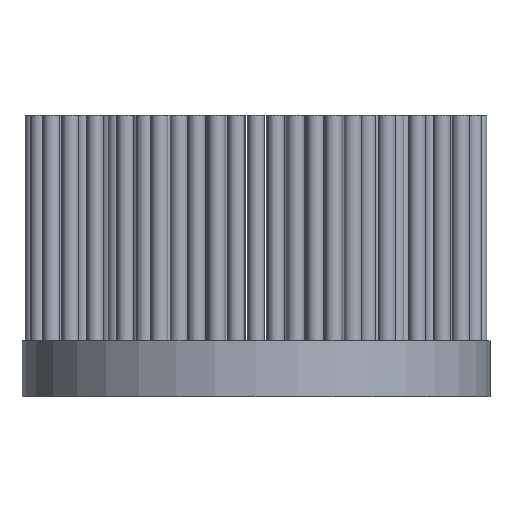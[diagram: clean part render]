
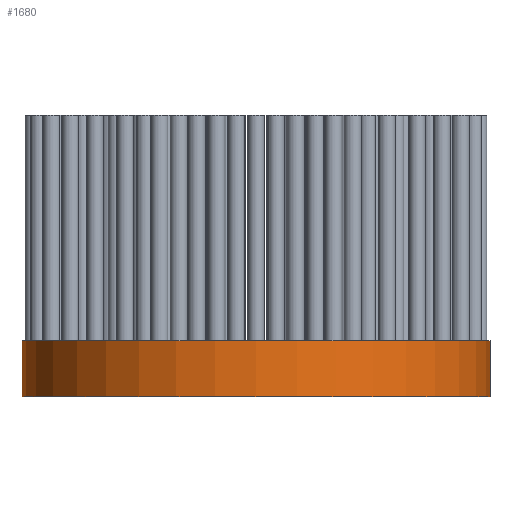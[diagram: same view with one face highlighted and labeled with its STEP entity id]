
A CAD part, front view. The second image highlights one B-rep face of the part: STEP entity #1680.
In plain terms, the highlighted cylindrical face has radius 41.5 mm (diameter 83 mm), a partial arc.
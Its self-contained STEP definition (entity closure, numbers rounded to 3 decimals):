
#207 = CARTESIAN_POINT ( 'NONE',  ( 0., 0., -10. ) ) ;
#607 = CARTESIAN_POINT ( 'NONE',  ( 41.5, 0., -10. ) ) ;
#719 = FACE_OUTER_BOUND ( 'NONE', #6811, .T. ) ;
#958 = DIRECTION ( 'NONE',  ( -1., 0., 0. ) ) ;
#1108 = VERTEX_POINT ( 'NONE', #1987 ) ;
#1209 = AXIS2_PLACEMENT_3D ( 'NONE', #207, #5019, #958 ) ;
#1680 = ADVANCED_FACE ( 'NONE', ( #719 ), #4189, .T. ) ;
#1744 = CARTESIAN_POINT ( 'NONE',  ( -41.5, 0., 40. ) ) ;
#1987 = CARTESIAN_POINT ( 'NONE',  ( -41.5, 0., 0. ) ) ;
#2243 = ORIENTED_EDGE ( 'NONE', *, *, #6791, .T. ) ;
#2278 = DIRECTION ( 'NONE',  ( 0., 0., -1. ) ) ;
#2468 = DIRECTION ( 'NONE',  ( 0., 0., -1. ) ) ;
#2889 = DIRECTION ( 'NONE',  ( 0., 0., 1. ) ) ;
#2951 = CARTESIAN_POINT ( 'NONE',  ( 0., 0., 40. ) ) ;
#3007 = VECTOR ( 'NONE', #8440, 1000. ) ;
#3019 = VECTOR ( 'NONE', #2468, 1000. ) ;
#3179 = AXIS2_PLACEMENT_3D ( 'NONE', #6719, #2889, #7340 ) ;
#3212 = LINE ( 'NONE', #1744, #3019 ) ;
#3719 = CARTESIAN_POINT ( 'NONE',  ( -41.5, 0., -10. ) ) ;
#3745 = ORIENTED_EDGE ( 'NONE', *, *, #7611, .F. ) ;
#3995 = CARTESIAN_POINT ( 'NONE',  ( 41.5, 0., 40. ) ) ;
#4189 = CYLINDRICAL_SURFACE ( 'NONE', #7387, 41.5 ) ;
#5019 = DIRECTION ( 'NONE',  ( 0., 0., -1. ) ) ;
#5114 = EDGE_CURVE ( 'NONE', #1108, #6238, #5525, .T. ) ;
#5350 = VERTEX_POINT ( 'NONE', #3719 ) ;
#5525 = CIRCLE ( 'NONE', #3179, 41.5 ) ;
#6030 = EDGE_CURVE ( 'NONE', #7047, #5350, #6426, .T. ) ;
#6238 = VERTEX_POINT ( 'NONE', #7696 ) ;
#6401 = LINE ( 'NONE', #3995, #3007 ) ;
#6426 = CIRCLE ( 'NONE', #1209, 41.5 ) ;
#6719 = CARTESIAN_POINT ( 'NONE',  ( 0., 0., 0. ) ) ;
#6785 = DIRECTION ( 'NONE',  ( -1., 0., 0. ) ) ;
#6791 = EDGE_CURVE ( 'NONE', #1108, #5350, #3212, .T. ) ;
#6811 = EDGE_LOOP ( 'NONE', ( #3745, #7159, #2243, #7351 ) ) ;
#7047 = VERTEX_POINT ( 'NONE', #607 ) ;
#7159 = ORIENTED_EDGE ( 'NONE', *, *, #5114, .F. ) ;
#7340 = DIRECTION ( 'NONE',  ( 1., 0., 0. ) ) ;
#7351 = ORIENTED_EDGE ( 'NONE', *, *, #6030, .F. ) ;
#7387 = AXIS2_PLACEMENT_3D ( 'NONE', #2951, #2278, #6785 ) ;
#7611 = EDGE_CURVE ( 'NONE', #6238, #7047, #6401, .T. ) ;
#7696 = CARTESIAN_POINT ( 'NONE',  ( 41.5, 0., 0. ) ) ;
#8440 = DIRECTION ( 'NONE',  ( 0., 0., -1. ) ) ;
